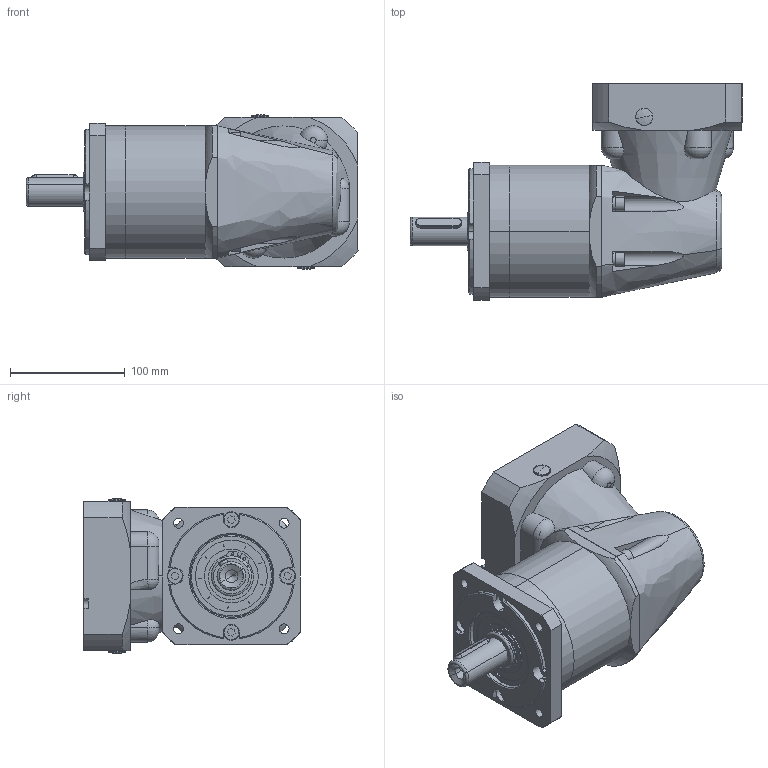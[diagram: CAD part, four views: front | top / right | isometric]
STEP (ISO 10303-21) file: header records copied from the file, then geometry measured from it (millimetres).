
FILE_DESCRIPTION (( 'STEP AP203' ), '1' );
FILE_NAME ('WPF115L2-i-P2-S2-24-58-110-145-M8.step', '2020-03-30T09:02:15', ( '个人用户' ), ( '微软中国' ), 'SwSTEP 2.0', 'SolidWorks 2018', '' );
FILE_SCHEMA (( 'CONFIG_CONTROL_DESIGN' ));
Length unit declared in the file: millimetre
Products named in the file (1): WPF115L2-i-P2-S2-24-58-110-145-M8
Bounding box: 289 x 188.5 x 134.6 mm (x, y, z)
Volume: 1838154 mm3; surface area: 415667.7 mm2
Topology: 41 solids, 41 shells, 1241 faces, 2942 edges, 1861 vertices
Faces by surface type: cylinder 451, plane 406, torus 150, cone 146, sphere 78, bspline 10
Entity records: 42038 total; most frequent: CARTESIAN_POINT 12731, DIRECTION 6481, ORIENTED_EDGE 5816, EDGE_CURVE 2908, AXIS2_PLACEMENT_3D 2657, VERTEX_POINT 1861, EDGE_LOOP 1437, CIRCLE 1425
